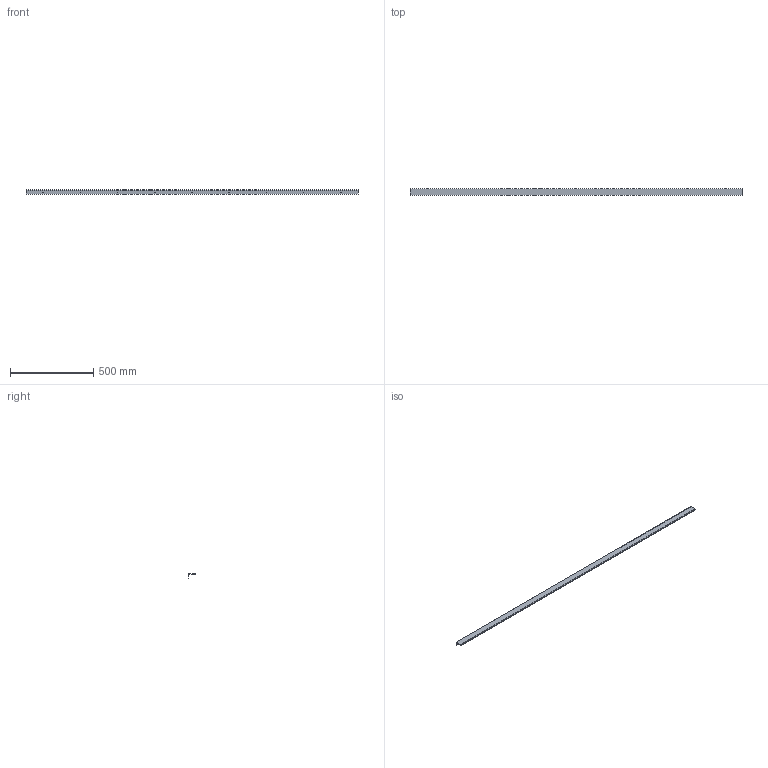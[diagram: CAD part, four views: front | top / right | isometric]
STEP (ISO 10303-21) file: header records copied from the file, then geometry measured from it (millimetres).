
FILE_DESCRIPTION( ( '' ), '1' );
FILE_NAME( 'D:/1.AUTOCAD EXPORT/Group 10/sheet_10_1/9131455.stp', '2013-10-21T12:27:19', ( '' ), ( '' ), ' ', ' ', ' ' );
FILE_SCHEMA( ( 'automotive_design' ) );
Length unit declared in the file: millimetre
Products named in the file (1): 1
Bounding box: 2000 x 42 x 25 mm (x, y, z)
Volume: 373627 mm3; surface area: 271362.6 mm2
Topology: 1 solids, 1 shells, 33 faces, 93 edges, 62 vertices
Faces by surface type: cylinder 23, plane 10
Entity records: 2192 total; most frequent: DIRECTION 207, STYLED_ITEM 189, PRESENTATION_STYLE_ASSIGNMENT 189, CARTESIAN_POINT 189, COLOUR_RGB 189, ORIENTED_EDGE 186, EDGE_CURVE 93, CURVE_STYLE 93
